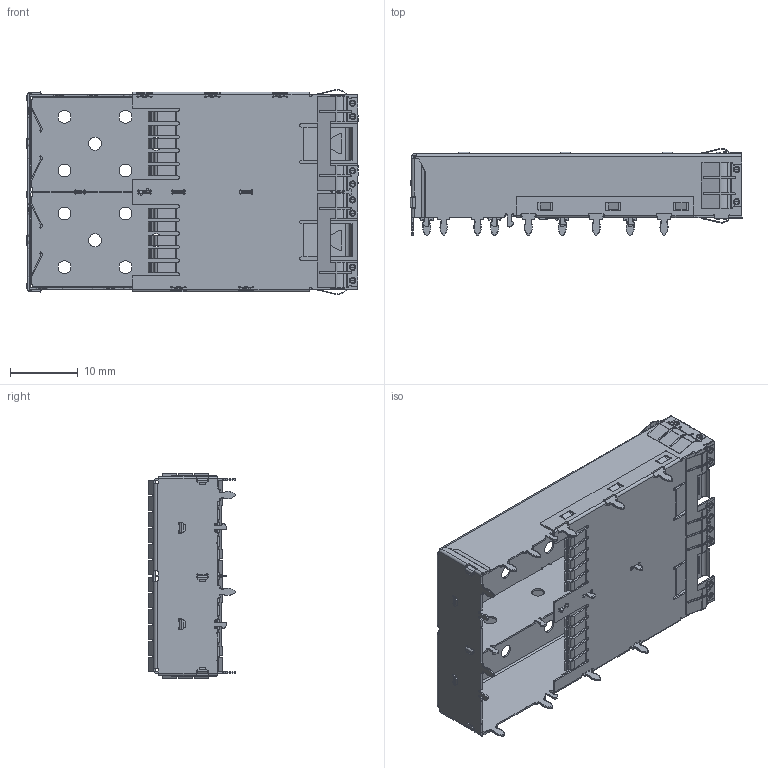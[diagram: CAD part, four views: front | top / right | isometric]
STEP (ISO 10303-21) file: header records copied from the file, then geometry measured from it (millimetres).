
FILE_DESCRIPTION (( 'STEP AP214' ), '1' );
FILE_NAME ('SS20.STEP', '2020-04-20T07:04:20', ( '' ), ( '' ), 'SwSTEP 2.0', 'SolidWorks 2012', '' );
FILE_SCHEMA (( 'AUTOMOTIVE_DESIGN' ));
Length unit declared in the file: millimetre
Products named in the file (8): SS20-S150_1x2-Bottom Spring Ass''y; SS20-S150_1x1-Side Spring Ass''y; SS20-S150_1x2-Top Spring Ass''y; SS20-S120_spring; SS20-S140_1x2 ass''y; SS20-S130_pin to pin-ass''y; SS20-S110_2.25-圓孔ass''y; SS20
Assembly tree (8 placements, depth 2):
  SS20
    SS20-S110_2.25-圓孔ass''y
    SS20-S130_pin to pin-ass''y
    SS20-S140_1x2 ass''y
    SS20-S120_spring
    SS20-S150_1x2-Top Spring Ass''y
    SS20-S150_1x1-Side Spring Ass''y  x2
    SS20-S150_1x2-Bottom Spring Ass''y
Bounding box: 48.97 x 12.8 x 30.25 mm (x, y, z)
Volume: 1024.6 mm3; surface area: 9043.3 mm2
Topology: 8 solids, 8 shells, 3006 faces, 7890 edges, 4888 vertices
Faces by surface type: plane 1465, cylinder 1315, torus 80, sphere 80, bspline 66
Entity records: 92871 total; most frequent: CARTESIAN_POINT 19993, DIRECTION 15635, ORIENTED_EDGE 15230, EDGE_CURVE 7615, AXIS2_PLACEMENT_3D 5584, VERTEX_POINT 4722, VECTOR 4467, LINE 4467
